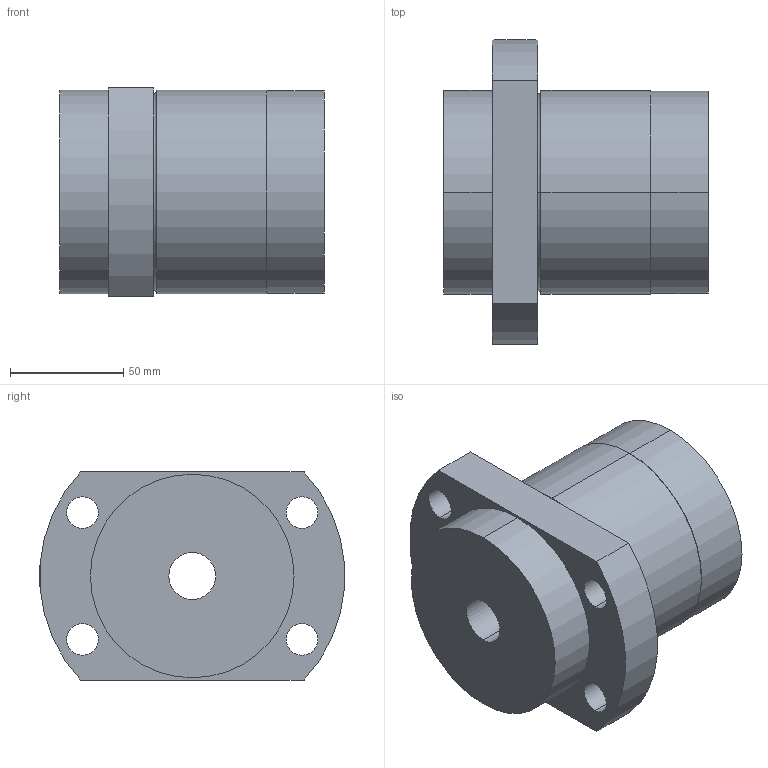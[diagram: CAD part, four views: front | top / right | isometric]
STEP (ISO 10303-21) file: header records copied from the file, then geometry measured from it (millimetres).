
FILE_DESCRIPTION (( 'STEP AP203' ), '1' );
FILE_NAME ('SFYR5050-3.6.STEP', '2022-03-08T11:35:29', ( '' ), ( '' ), 'SwSTEP 2.0', 'SolidWorks 2017', '' );
FILE_SCHEMA (( 'CONFIG_CONTROL_DESIGN' ));
Length unit declared in the file: millimetre
Products named in the file (1): SFYR5050-3.6
Bounding box: 117 x 134.77 x 92 mm (x, y, z)
Volume: 790422.3 mm3; surface area: 68180 mm2
Topology: 1 solids, 1 shells, 33 faces, 78 edges, 49 vertices
Faces by surface type: cylinder 20, plane 7, cone 4, torus 2
Entity records: 1109 total; most frequent: CARTESIAN_POINT 221, DIRECTION 186, ORIENTED_EDGE 152, AXIS2_PLACEMENT_3D 78, EDGE_CURVE 76, VERTEX_POINT 49, EDGE_LOOP 47, CIRCLE 44
